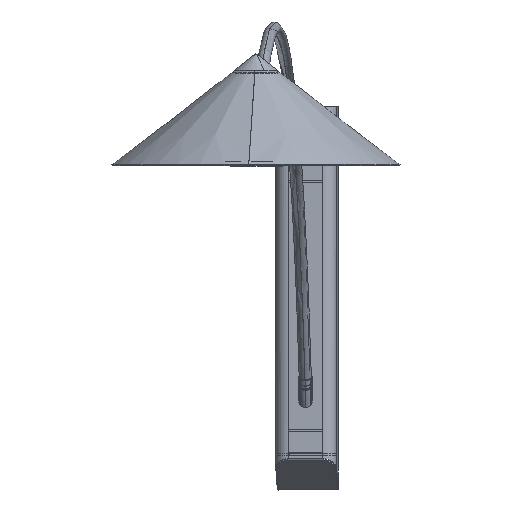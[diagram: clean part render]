
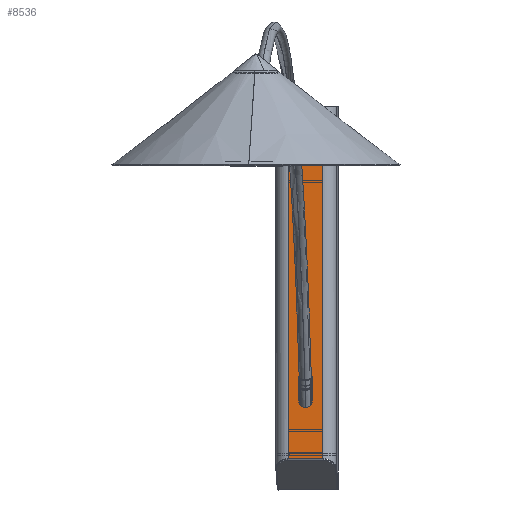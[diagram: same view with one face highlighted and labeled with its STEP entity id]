
A CAD part, top view. The second image highlights one B-rep face of the part: STEP entity #8536.
In plain terms, the highlighted planar face has unit normal (-0.051, 0, 0.999) as drawn and (0, 0, -1) by its records, which use the part's own axes.
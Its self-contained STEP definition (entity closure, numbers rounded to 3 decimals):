
#839 = LINE ( 'NONE', #12242, #10986 ) ;
#1640 = AXIS2_PLACEMENT_3D ( 'NONE', #17968, #3117, #16136 ) ;
#1705 = CARTESIAN_POINT ( 'NONE',  ( 70., 0., -60. ) ) ;
#2113 = CIRCLE ( 'NONE', #13897, 10. ) ;
#2248 = ORIENTED_EDGE ( 'NONE', *, *, #6950, .F. ) ;
#2306 = CARTESIAN_POINT ( 'NONE',  ( 20., 0., -60. ) ) ;
#2623 = FACE_BOUND ( 'NONE', #16252, .T. ) ;
#3079 = VERTEX_POINT ( 'NONE', #16790 ) ;
#3117 = DIRECTION ( 'NONE',  ( 0., 0., -1. ) ) ;
#3300 = VERTEX_POINT ( 'NONE', #4095 ) ;
#3449 = EDGE_CURVE ( 'NONE', #3300, #4513, #10913, .T. ) ;
#3521 = DIRECTION ( 'NONE',  ( 0., -1., 0. ) ) ;
#3621 = VECTOR ( 'NONE', #5835, 1000. ) ;
#3650 = ORIENTED_EDGE ( 'NONE', *, *, #20149, .T. ) ;
#4078 = ORIENTED_EDGE ( 'NONE', *, *, #9916, .F. ) ;
#4095 = CARTESIAN_POINT ( 'NONE',  ( 70., 520., -60. ) ) ;
#4513 = VERTEX_POINT ( 'NONE', #9388 ) ;
#4633 = LINE ( 'NONE', #9395, #3621 ) ;
#5485 = VERTEX_POINT ( 'NONE', #12696 ) ;
#5835 = DIRECTION ( 'NONE',  ( 0., 1., 0. ) ) ;
#6331 = CARTESIAN_POINT ( 'NONE',  ( 45., 13., -60. ) ) ;
#6533 = CARTESIAN_POINT ( 'NONE',  ( 55., 400., -60. ) ) ;
#6703 = LINE ( 'NONE', #1705, #15713 ) ;
#6945 = AXIS2_PLACEMENT_3D ( 'NONE', #2306, #7386, #15953 ) ;
#6950 = EDGE_CURVE ( 'NONE', #16676, #9720, #4633, .T. ) ;
#7386 = DIRECTION ( 'NONE',  ( 0., 0., -1. ) ) ;
#7529 = ORIENTED_EDGE ( 'NONE', *, *, #12972, .F. ) ;
#8316 = DIRECTION ( 'NONE',  ( 0., 1., 0. ) ) ;
#8486 = ORIENTED_EDGE ( 'NONE', *, *, #14322, .F. ) ;
#8536 = ADVANCED_FACE ( 'NONE', ( #2623, #17154, #20535 ), #19322, .T. ) ;
#9033 = ORIENTED_EDGE ( 'NONE', *, *, #14468, .F. ) ;
#9388 = CARTESIAN_POINT ( 'NONE',  ( 20., 520., -60. ) ) ;
#9395 = CARTESIAN_POINT ( 'NONE',  ( 35., 400., -60. ) ) ;
#9415 = ORIENTED_EDGE ( 'NONE', *, *, #16970, .F. ) ;
#9460 = VECTOR ( 'NONE', #3521, 1000. ) ;
#9694 = CARTESIAN_POINT ( 'NONE',  ( 55., 400., -60. ) ) ;
#9720 = VERTEX_POINT ( 'NONE', #18439 ) ;
#9916 = EDGE_CURVE ( 'NONE', #16395, #16676, #11488, .T. ) ;
#10008 = DIRECTION ( 'NONE',  ( 0., 0., -1. ) ) ;
#10268 = CARTESIAN_POINT ( 'NONE',  ( 50.25, 13., -60. ) ) ;
#10585 = CARTESIAN_POINT ( 'NONE',  ( 35., 400., -60. ) ) ;
#10592 = VECTOR ( 'NONE', #12740, 1000. ) ;
#10775 = AXIS2_PLACEMENT_3D ( 'NONE', #6331, #16107, #12827 ) ;
#10799 = AXIS2_PLACEMENT_3D ( 'NONE', #18880, #14092, #10825 ) ;
#10825 = DIRECTION ( 'NONE',  ( -1., 0., 0. ) ) ;
#10913 = LINE ( 'NONE', #21018, #10592 ) ;
#10973 = CARTESIAN_POINT ( 'NONE',  ( 20., 0., -60. ) ) ;
#10986 = VECTOR ( 'NONE', #18873, 1000. ) ;
#11488 = CIRCLE ( 'NONE', #10799, 10. ) ;
#11846 = CARTESIAN_POINT ( 'NONE',  ( 45., 435., -60. ) ) ;
#12242 = CARTESIAN_POINT ( 'NONE',  ( 20., 0., -60. ) ) ;
#12696 = CARTESIAN_POINT ( 'NONE',  ( 39.75, 13., -60. ) ) ;
#12740 = DIRECTION ( 'NONE',  ( -1., 0., 0. ) ) ;
#12827 = DIRECTION ( 'NONE',  ( -1., 0., 0. ) ) ;
#12972 = EDGE_CURVE ( 'NONE', #3079, #3300, #6703, .T. ) ;
#13333 = ORIENTED_EDGE ( 'NONE', *, *, #17114, .T. ) ;
#13366 = DIRECTION ( 'NONE',  ( -1., 0., 0. ) ) ;
#13483 = CARTESIAN_POINT ( 'NONE',  ( 20., 0., -60. ) ) ;
#13897 = AXIS2_PLACEMENT_3D ( 'NONE', #11846, #10008, #13366 ) ;
#14092 = DIRECTION ( 'NONE',  ( 0., 0., -1. ) ) ;
#14322 = EDGE_CURVE ( 'NONE', #5485, #16818, #15635, .T. ) ;
#14468 = EDGE_CURVE ( 'NONE', #9720, #15048, #2113, .T. ) ;
#14591 = EDGE_LOOP ( 'NONE', ( #15560, #7529, #3650, #13333 ) ) ;
#15048 = VERTEX_POINT ( 'NONE', #17527 ) ;
#15406 = VERTEX_POINT ( 'NONE', #10973 ) ;
#15555 = DIRECTION ( 'NONE',  ( 0., 1., 0. ) ) ;
#15560 = ORIENTED_EDGE ( 'NONE', *, *, #3449, .F. ) ;
#15635 = CIRCLE ( 'NONE', #10775, 5.25 ) ;
#15713 = VECTOR ( 'NONE', #8316, 1000. ) ;
#15953 = DIRECTION ( 'NONE',  ( -1., 0., 0. ) ) ;
#16107 = DIRECTION ( 'NONE',  ( 0., 0., -1. ) ) ;
#16136 = DIRECTION ( 'NONE',  ( -1., 0., 0. ) ) ;
#16252 = EDGE_LOOP ( 'NONE', ( #4078, #9415, #9033, #2248 ) ) ;
#16395 = VERTEX_POINT ( 'NONE', #6533 ) ;
#16542 = EDGE_LOOP ( 'NONE', ( #8486, #20382 ) ) ;
#16676 = VERTEX_POINT ( 'NONE', #10585 ) ;
#16790 = CARTESIAN_POINT ( 'NONE',  ( 70., 0., -60. ) ) ;
#16818 = VERTEX_POINT ( 'NONE', #10268 ) ;
#16970 = EDGE_CURVE ( 'NONE', #15048, #16395, #18378, .T. ) ;
#17114 = EDGE_CURVE ( 'NONE', #15406, #4513, #20455, .T. ) ;
#17154 = FACE_BOUND ( 'NONE', #16542, .T. ) ;
#17527 = CARTESIAN_POINT ( 'NONE',  ( 55., 435., -60. ) ) ;
#17968 = CARTESIAN_POINT ( 'NONE',  ( 45., 13., -60. ) ) ;
#18378 = LINE ( 'NONE', #9694, #9460 ) ;
#18439 = CARTESIAN_POINT ( 'NONE',  ( 35., 435., -60. ) ) ;
#18631 = CIRCLE ( 'NONE', #1640, 5.25 ) ;
#18873 = DIRECTION ( 'NONE',  ( -1., 0., 0. ) ) ;
#18880 = CARTESIAN_POINT ( 'NONE',  ( 45., 400., -60. ) ) ;
#19197 = VECTOR ( 'NONE', #15555, 1000. ) ;
#19322 = PLANE ( 'NONE',  #6945 ) ;
#20149 = EDGE_CURVE ( 'NONE', #3079, #15406, #839, .T. ) ;
#20382 = ORIENTED_EDGE ( 'NONE', *, *, #20422, .F. ) ;
#20422 = EDGE_CURVE ( 'NONE', #16818, #5485, #18631, .T. ) ;
#20455 = LINE ( 'NONE', #13483, #19197 ) ;
#20535 = FACE_OUTER_BOUND ( 'NONE', #14591, .T. ) ;
#21018 = CARTESIAN_POINT ( 'NONE',  ( 20., 520., -60. ) ) ;
